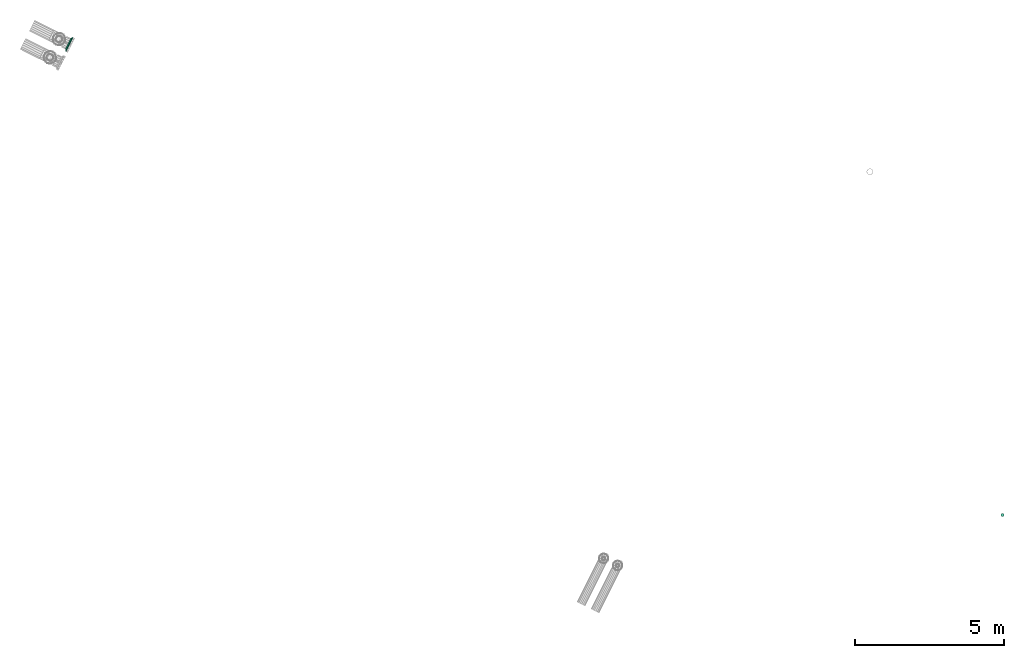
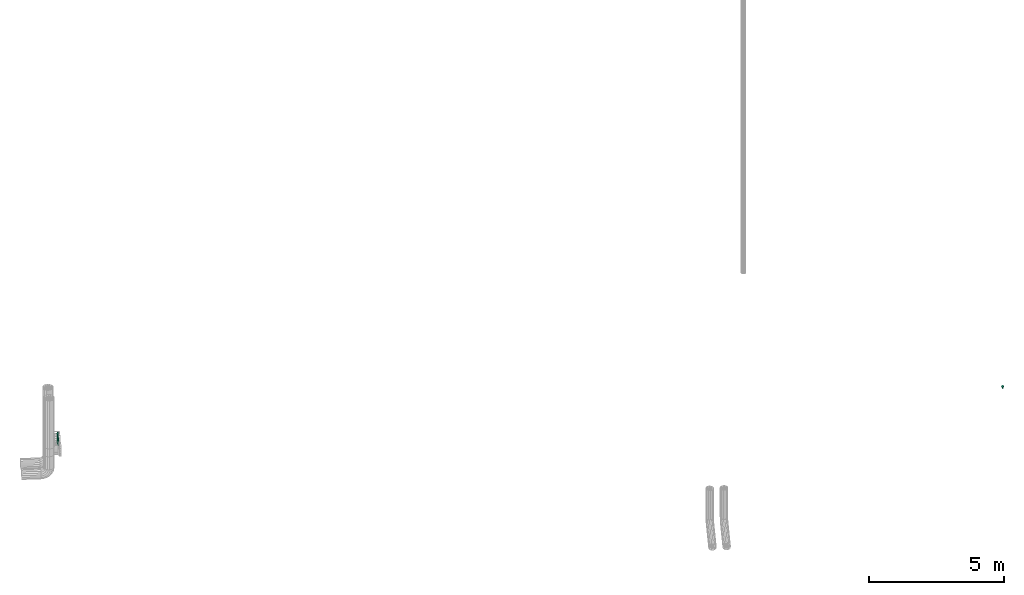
# One storey, part 11 of 11: 2 flow fittings.
"""IFC2X3 building model written with IfcOpenShell, lengths in metres."""

from ifc_helpers import new_model, si_unit, derived_unit, direction, frame, origin, place, context, subcontext, project, spatial, face_set, surface_model, source, transform, mapped, material, type_object, type_shapes, element, save


model = new_model("IFC2X3")

# Units and contexts
model_context = context("Model", 3, precision=5.2338327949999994e-05, world=origin(), true_north=direction((0.0, 1.0)))
body_context = subcontext(model_context, "Body", "Model", "MODEL_VIEW")
ifc_project = project(units=[si_unit("LENGTHUNIT", "METRE"), si_unit("AREAUNIT", "SQUARE_METRE"), si_unit("VOLUMEUNIT", "CUBIC_METRE"), si_unit("MASSUNIT", "GRAM", prefix="KILO"), si_unit("PLANEANGLEUNIT", "RADIAN"), derived_unit("THERMALTRANSMITTANCEUNIT", [(si_unit("MASSUNIT", "GRAM", prefix="KILO"), 1), (si_unit("THERMODYNAMICTEMPERATUREUNIT", "KELVIN"), -1), (si_unit("TIMEUNIT", "SECOND"), -3)])], contexts=[model_context])

# Site, building, storey
site_placement = place(None, frame((0.0, 0.0, 0.0), z_axis=(0.0, 0.0, 1.0), x_axis=(0.8939966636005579, -0.4480736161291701, 0.0)))
site = spatial("IfcSite", under=ifc_project, at=site_placement, Name="Default", CompositionType="ELEMENT")
building_placement = place(site_placement, origin())
building = spatial("IfcBuilding", under=site, at=building_placement, CompositionType="ELEMENT")
storey_placement = place(building_placement, frame((0.0, 0.0, -2.7499999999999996)))
storey = spatial("IfcBuildingStorey", under=building, at=storey_placement, Name="1. Untergeschoss", CompositionType="ELEMENT", Elevation=-2.7499999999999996)

# Flow fittings
ifc_material_1 = material(Name="IfcSurfaceStyle #850376")
distribution_element_type_1 = type_object("IfcDistributionElementType", Name="Bodenwasserablauf:Bodenwasserablauf", material=ifc_material_1)
shared_shape_1 = source(origin(), body_context, "Body", "SurfaceModel", [
    surface_model("IfcFaceBasedSurfaceModel", [(36.41969876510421, 7.86786531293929, 0.0), (36.4017427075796, 7.871031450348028, 0.0), (36.4017427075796, 7.871031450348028, -0.007999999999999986), (36.41969876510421, 7.86786531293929, -0.007999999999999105), (36.38595241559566, 7.880147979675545, 0.0), (36.38595241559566, 7.880147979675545, -0.007999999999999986), (36.37423243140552, 7.8941153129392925, 0.0), (36.37423243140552, 7.8941153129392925, -0.007999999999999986), (36.36799635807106, 7.911248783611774, 0.0), (36.36799635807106, 7.911248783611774, -0.007999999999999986), (36.367996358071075, 7.929481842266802, 0.0), (36.367996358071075, 7.929481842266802, -0.007999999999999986), (36.37423243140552, 7.946615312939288, 0.0), (36.37423243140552, 7.946615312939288, -0.007999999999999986), (36.38595241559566, 7.960582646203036, 0.0), (36.38595241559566, 7.960582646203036, -0.007999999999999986), (36.4017427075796, 7.969699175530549, 0.0), (36.4017427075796, 7.969699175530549, -0.007999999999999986), (36.41969876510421, 7.972865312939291, 0.0), (36.41969876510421, 7.972865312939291, -0.007999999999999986), (36.43765482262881, 7.96969917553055, 0.0), (36.43765482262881, 7.96969917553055, -0.007999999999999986), (36.453445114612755, 7.960582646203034, 0.0), (36.453445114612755, 7.960582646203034, -0.007999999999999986), (36.46516509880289, 7.94661531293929, 0.0), (36.46516509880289, 7.94661531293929, -0.007999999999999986), (36.47140117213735, 7.929481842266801, 0.0), (36.47140117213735, 7.929481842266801, -0.007999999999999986), (36.47140117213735, 7.911248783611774, 0.0), (36.47140117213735, 7.911248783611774, -0.007999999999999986), (36.465165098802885, 7.894115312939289, 0.0), (36.465165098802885, 7.894115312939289, -0.007999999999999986), (36.453445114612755, 7.880147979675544, 0.0), (36.453445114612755, 7.880147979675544, -0.007999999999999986), (36.4376548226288, 7.871031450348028, 0.0), (36.4376548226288, 7.871031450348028, -0.007999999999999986), (36.4196987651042, 7.92036531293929, 0.0), (36.4196987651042, 7.92036531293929, -0.007999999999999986), (36.4196987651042, 7.872865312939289, -0.007999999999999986), (36.40345280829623, 7.875729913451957, -0.007999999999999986), (36.40345280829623, 7.875729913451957, -0.04099999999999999), (36.4196987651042, 7.872865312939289, -0.04099999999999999), (36.38916635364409, 7.883978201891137, -0.007999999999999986), (36.38916635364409, 7.883978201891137, -0.04099999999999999), (36.37856255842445, 7.8966153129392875, -0.007999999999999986), (36.37856255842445, 7.8966153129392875, -0.04099999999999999), (36.37292039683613, 7.912117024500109, -0.007999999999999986), (36.37292039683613, 7.912117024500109, -0.04099999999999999), (36.37292039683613, 7.928613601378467, -0.007999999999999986), (36.37292039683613, 7.928613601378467, -0.04099999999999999), (36.37856255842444, 7.944115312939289, -0.007999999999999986), (36.37856255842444, 7.944115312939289, -0.04099999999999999), (36.3891663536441, 7.956752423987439, -0.007999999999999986), (36.3891663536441, 7.956752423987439, -0.04099999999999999), (36.40345280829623, 7.9650007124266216, -0.007999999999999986), (36.40345280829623, 7.9650007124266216, -0.04099999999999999), (36.4196987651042, 7.967865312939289, -0.007999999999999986), (36.4196987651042, 7.967865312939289, -0.04099999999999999), (36.43594472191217, 7.96500071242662, -0.007999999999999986), (36.43594472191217, 7.96500071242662, -0.04099999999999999), (36.450231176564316, 7.956752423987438, -0.007999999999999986), (36.450231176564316, 7.956752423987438, -0.04099999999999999), (36.46083497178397, 7.94411531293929, -0.007999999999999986), (36.46083497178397, 7.94411531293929, -0.04099999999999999), (36.46647713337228, 7.928613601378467, -0.007999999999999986), (36.46647713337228, 7.928613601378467, -0.04099999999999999), (36.46647713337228, 7.912117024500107, -0.007999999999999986), (36.46647713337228, 7.912117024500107, -0.04099999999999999), (36.46083497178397, 7.896615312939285, -0.007999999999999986), (36.46083497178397, 7.896615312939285, -0.04099999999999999), (36.45023117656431, 7.883978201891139, -0.007999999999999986), (36.45023117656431, 7.883978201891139, -0.04099999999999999), (36.43594472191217, 7.875729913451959, -0.007999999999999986), (36.43594472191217, 7.875729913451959, -0.04099999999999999), (36.4196987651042, 7.92036531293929, -0.04099999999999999), (36.41969876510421, 7.888865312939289, -0.04099999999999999), (36.40892513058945, 7.890764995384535, -0.04099999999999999), (36.40892513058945, 7.890764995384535, -0.10300000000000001), (36.41969876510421, 7.888865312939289, -0.10300000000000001), (36.399450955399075, 7.896234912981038, -0.04099999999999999), (36.399450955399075, 7.896234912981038, -0.10300000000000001), (36.392418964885, 7.9046153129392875, -0.04099999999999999), (36.392418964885, 7.9046153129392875, -0.10300000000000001), (36.38867732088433, 7.914895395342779, -0.04099999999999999), (36.38867732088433, 7.914895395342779, -0.10300000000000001), (36.38867732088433, 7.925835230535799, -0.04099999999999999), (36.38867732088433, 7.925835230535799, -0.10300000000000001), (36.392418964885, 7.936115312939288, -0.04099999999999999), (36.392418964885, 7.936115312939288, -0.10300000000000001), (36.399450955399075, 7.9444957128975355, -0.04099999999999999), (36.399450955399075, 7.9444957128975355, -0.10300000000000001), (36.40892513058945, 7.949965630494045, -0.04099999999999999), (36.40892513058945, 7.949965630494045, -0.10300000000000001), (36.41969876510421, 7.95186531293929, -0.04099999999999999), (36.41969876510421, 7.95186531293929, -0.10300000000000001), (36.43047239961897, 7.9499656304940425, -0.04099999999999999), (36.43047239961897, 7.9499656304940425, -0.10300000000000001), (36.439946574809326, 7.944495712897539, -0.04099999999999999), (36.439946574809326, 7.944495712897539, -0.10300000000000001), (36.44697856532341, 7.936115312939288, -0.04099999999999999), (36.44697856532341, 7.936115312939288, -0.10300000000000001), (36.450720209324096, 7.925835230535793, -0.04099999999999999), (36.450720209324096, 7.925835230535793, -0.10300000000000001), (36.4507202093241, 7.9148953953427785, -0.04099999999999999), (36.4507202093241, 7.9148953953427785, -0.10300000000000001), (36.44697856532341, 7.904615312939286, -0.04099999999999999), (36.44697856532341, 7.904615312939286, -0.10300000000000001), (36.439946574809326, 7.896234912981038, -0.04099999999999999), (36.439946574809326, 7.896234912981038, -0.10300000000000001), (36.43047239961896, 7.890764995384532, -0.04099999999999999), (36.43047239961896, 7.890764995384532, -0.10300000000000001)], [face_set([[[0, 1, 2, 3]], [[1, 4, 5, 2]], [[4, 6, 7, 5]], [[6, 8, 9, 7]], [[8, 10, 11, 9]], [[10, 12, 13, 11]], [[12, 14, 15, 13]], [[14, 16, 17, 15]], [[16, 18, 19, 17]], [[18, 20, 21, 19]], [[20, 22, 23, 21]], [[22, 24, 25, 23]], [[24, 26, 27, 25]], [[26, 28, 29, 27]], [[28, 30, 31, 29]], [[30, 32, 33, 31]], [[32, 34, 35, 33]], [[34, 0, 3, 35]], [[36, 1, 0]], [[36, 4, 1]], [[36, 6, 4]], [[36, 8, 6]], [[36, 10, 8]], [[36, 12, 10]], [[36, 14, 12]], [[36, 16, 14]], [[36, 18, 16]], [[36, 20, 18]], [[36, 22, 20]], [[36, 24, 22]], [[36, 26, 24]], [[36, 28, 26]], [[36, 30, 28]], [[36, 32, 30]], [[36, 34, 32]], [[36, 0, 34]], [[37, 35, 3]], [[37, 33, 35]], [[37, 31, 33]], [[37, 29, 31]], [[37, 27, 29]], [[37, 25, 27]], [[37, 23, 25]], [[37, 21, 23]], [[37, 19, 21]], [[37, 17, 19]], [[37, 15, 17]], [[37, 13, 15]], [[37, 11, 13]], [[37, 9, 11]], [[37, 7, 9]], [[37, 5, 7]], [[37, 2, 5]], [[37, 3, 2]], [[38, 39, 40, 41]], [[39, 42, 43, 40]], [[42, 44, 45, 43]], [[44, 46, 47, 45]], [[46, 48, 49, 47]], [[48, 50, 51, 49]], [[50, 52, 53, 51]], [[52, 54, 55, 53]], [[54, 56, 57, 55]], [[56, 58, 59, 57]], [[58, 60, 61, 59]], [[60, 62, 63, 61]], [[62, 64, 65, 63]], [[64, 66, 67, 65]], [[66, 68, 69, 67]], [[68, 70, 71, 69]], [[70, 72, 73, 71]], [[72, 38, 41, 73]], [[74, 73, 41]], [[74, 71, 73]], [[74, 69, 71]], [[74, 67, 69]], [[74, 65, 67]], [[74, 63, 65]], [[74, 61, 63]], [[74, 59, 61]], [[74, 57, 59]], [[74, 55, 57]], [[74, 53, 55]], [[74, 51, 53]], [[74, 49, 51]], [[74, 47, 49]], [[74, 45, 47]], [[74, 43, 45]], [[74, 40, 43]], [[74, 41, 40]], [[75, 76, 77, 78]], [[76, 79, 80, 77]], [[79, 81, 82, 80]], [[81, 83, 84, 82]], [[83, 85, 86, 84]], [[85, 87, 88, 86]], [[87, 89, 90, 88]], [[89, 91, 92, 90]], [[91, 93, 94, 92]], [[93, 95, 96, 94]], [[95, 97, 98, 96]], [[97, 99, 100, 98]], [[99, 101, 102, 100]], [[101, 103, 104, 102]], [[103, 105, 106, 104]], [[105, 107, 108, 106]], [[107, 109, 110, 108]], [[109, 75, 78, 110]]])]),
])
type_shapes(distribution_element_type_1, [shared_shape_1])
flow_fitting_1_placement = place(storey_placement, frame((0.0, 0.0, 2.7499999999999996)))
element("IfcFlowFitting", 1, at=flow_fitting_1_placement, inside=storey, type_object=distribution_element_type_1, material=ifc_material_1, Name="Bodenwasserablauf", ObjectType="Bodenwasserablauf", context=body_context, shape_type="MappedRepresentation", body=[
    mapped(shared_shape_1, transform((0.0, 0.0, 0.0), scale=1.0)),
])
ifc_material_2 = material(Name="IfcSurfaceStyle #1741")
distribution_element_type_2 = type_object("IfcDistributionElementType", Name="Flansch 861233:Flansch 861233", material=ifc_material_2)
shared_shape_2 = source(origin(), body_context, "Body", "SurfaceModel", [
    surface_model("IfcFaceBasedSurfaceModel", [(1.2476692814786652, 8.01220839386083, -0.8955573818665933), (1.2476692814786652, 7.974740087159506, -0.9021640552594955), (1.285669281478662, 7.972021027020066, -0.8946934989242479), (1.285669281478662, 8.012208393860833, -0.8876073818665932), (1.2476692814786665, 7.941791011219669, -0.9211872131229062), (1.2856692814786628, 7.936680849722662, -0.9150971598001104), (1.2476692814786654, 7.917335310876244, -0.9503323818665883), (1.2856692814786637, 7.910450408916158, -0.9463573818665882), (1.2476692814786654, 7.904322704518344, -0.986084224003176), (1.2856692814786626, 7.896493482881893, -0.9847037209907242), (1.2476692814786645, 7.904322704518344, -1.0241305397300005), (1.2856692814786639, 7.896493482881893, -1.0255110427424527), (1.247669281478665, 7.917335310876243, -1.0598823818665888), (1.285669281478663, 7.910450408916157, -1.0638573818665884), (1.2476692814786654, 7.941791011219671, -1.0890275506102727), (1.2856692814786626, 7.936680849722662, -1.0951176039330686), (1.2476692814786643, 7.974740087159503, -1.1080507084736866), (1.2856692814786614, 7.972021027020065, -1.1155212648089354), (1.247669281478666, 8.01220839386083, -1.114657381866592), (1.2856692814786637, 8.012208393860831, -1.122607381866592), (1.2476692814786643, 8.04967670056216, -1.1080507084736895), (1.2856692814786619, 8.052395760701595, -1.1155212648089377), (1.2476692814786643, 8.082625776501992, -1.089027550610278), (1.2856692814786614, 8.087735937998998, -1.0951176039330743), (1.2476692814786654, 8.107081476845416, -1.0598823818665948), (1.285669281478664, 8.113966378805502, -1.063857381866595), (1.2476692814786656, 8.120094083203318, -1.0241305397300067), (1.2856692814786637, 8.127923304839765, -1.0255110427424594), (1.2476692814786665, 8.12009408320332, -0.986084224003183), (1.285669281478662, 8.127923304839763, -0.9847037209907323), (1.2476692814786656, 8.107081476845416, -0.9503323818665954), (1.285669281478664, 8.1139663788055, -0.946357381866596), (1.2476692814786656, 8.08262577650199, -0.9211872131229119), (1.2856692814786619, 8.087735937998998, -0.9150971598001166), (1.2476692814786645, 8.049676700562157, -0.9021640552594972), (1.2856692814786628, 8.052395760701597, -0.8946934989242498), (1.2856692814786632, 7.8422083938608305, -1.0051073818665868), (1.285669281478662, 7.852460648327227, -1.06325080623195), (1.3096692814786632, 7.852460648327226, -1.06325080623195), (1.3096692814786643, 7.842208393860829, -1.0051073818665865), (1.2856692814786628, 7.881980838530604, -1.1143812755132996), (1.3096692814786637, 7.881980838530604, -1.1143812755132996), (1.2856692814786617, 7.927208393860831, -1.1523317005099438), (1.3096692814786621, 7.927208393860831, -1.1523317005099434), (1.2856692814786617, 7.982688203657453, -1.1725246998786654), (1.3096692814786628, 7.982688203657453, -1.1725246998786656), (1.2856692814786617, 8.04172858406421, -1.1725246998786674), (1.3096692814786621, 8.04172858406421, -1.1725246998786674), (1.2856692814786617, 8.097208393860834, -1.1523317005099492), (1.3096692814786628, 8.097208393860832, -1.1523317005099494), (1.2856692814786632, 8.142435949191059, -1.1143812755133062), (1.3096692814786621, 8.142435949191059, -1.1143812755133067), (1.2856692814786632, 8.171956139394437, -1.0632508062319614), (1.3096692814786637, 8.171956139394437, -1.0632508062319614), (1.2856692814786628, 8.182208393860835, -1.0051073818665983), (1.3096692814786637, 8.182208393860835, -1.0051073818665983), (1.2856692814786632, 8.171956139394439, -0.9469639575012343), (1.3096692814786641, 8.171956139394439, -0.946963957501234), (1.2856692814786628, 8.142435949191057, -0.8958334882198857), (1.3096692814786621, 8.14243594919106, -0.8958334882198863), (1.2856692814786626, 8.097208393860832, -0.8578830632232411), (1.3096692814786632, 8.09720839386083, -0.857883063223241), (1.2856692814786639, 8.04172858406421, -0.837690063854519), (1.3096692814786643, 8.041728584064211, -0.837690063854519), (1.2856692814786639, 7.982688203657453, -0.8376900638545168), (1.3096692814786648, 7.982688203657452, -0.8376900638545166), (1.2856692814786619, 7.927208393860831, -0.857883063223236), (1.3096692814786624, 7.92720839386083, -0.857883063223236), (1.2856692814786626, 7.881980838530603, -0.8958334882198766), (1.3096692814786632, 7.881980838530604, -0.8958334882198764), (1.285669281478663, 7.852460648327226, -0.9469639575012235), (1.3096692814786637, 7.852460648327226, -0.9469639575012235), (1.2856692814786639, 8.012208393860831, -1.0051073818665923), (1.2476692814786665, 8.012208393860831, -0.795557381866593), (1.2476692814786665, 7.9405380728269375, -0.8081947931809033), (1.2856692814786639, 7.919862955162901, -0.7513903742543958), (1.2856692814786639, 8.012208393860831, -0.7351073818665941), (1.2476692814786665, 7.877512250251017, -0.8445827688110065), (1.285669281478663, 7.838655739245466, -0.7982753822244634), (1.2476692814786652, 7.830732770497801, -0.9003323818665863), (1.285669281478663, 7.778381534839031, -0.8701073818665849), (1.2476692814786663, 7.805841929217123, -0.9687194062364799), (1.285669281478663, 7.746310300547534, -0.9582223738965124), (1.2476692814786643, 7.805841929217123, -1.0414953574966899), (1.2856692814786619, 7.746310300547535, -1.051992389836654), (1.2476692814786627, 7.8307327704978, -1.1098823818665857), (1.2856692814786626, 7.77838153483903, -1.1401073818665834), (1.2476692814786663, 7.877512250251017, -1.1656319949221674), (1.285669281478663, 7.838655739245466, -1.2119393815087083), (1.247669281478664, 7.9405380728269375, -1.2020199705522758), (1.2856692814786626, 7.919862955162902, -1.2588243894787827), (1.2476692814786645, 8.012208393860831, -1.2146573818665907), (1.285669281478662, 8.012208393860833, -1.2751073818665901), (1.2476692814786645, 8.083878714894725, -1.2020199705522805), (1.2856692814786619, 8.104553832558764, -1.258824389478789), (1.2476692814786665, 8.146904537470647, -1.165631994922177), (1.285669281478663, 8.1857610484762, -1.21193938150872), (1.2476692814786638, 8.19368401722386, -1.1098823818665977), (1.285669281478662, 8.246035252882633, -1.1401073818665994), (1.2476692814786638, 8.21857485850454, -1.0414953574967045), (1.2856692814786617, 8.27810648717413, -1.0519923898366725), (1.2476692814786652, 8.21857485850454, -0.9687194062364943), (1.285669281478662, 8.27810648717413, -0.9582223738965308), (1.247669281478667, 8.193684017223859, -0.900332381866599), (1.2856692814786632, 8.246035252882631, -0.8701073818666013), (1.2476692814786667, 8.146904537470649, -0.8445827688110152), (1.2856692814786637, 8.185761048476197, -0.798275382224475), (1.2476692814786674, 8.083878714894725, -0.8081947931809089), (1.2856692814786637, 8.104553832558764, -0.7513903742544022), (1.2856692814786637, 7.742208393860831, -1.0051073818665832), (1.2856692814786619, 7.758491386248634, -1.0974528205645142), (1.3096692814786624, 7.758491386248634, -1.0974528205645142), (1.3096692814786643, 7.74220839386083, -1.0051073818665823), (1.285669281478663, 7.805376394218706, -1.1786600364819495), (1.3096692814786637, 7.805376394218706, -1.1786600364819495), (1.2856692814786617, 7.87720839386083, -1.2389342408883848), (1.3096692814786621, 7.87720839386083, -1.2389342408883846), (1.2856692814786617, 7.965323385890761, -1.2710054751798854), (1.3096692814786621, 7.965323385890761, -1.2710054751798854), (1.285669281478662, 8.059093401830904, -1.271005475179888), (1.309669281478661, 8.059093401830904, -1.271005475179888), (1.2856692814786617, 8.147208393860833, -1.2389342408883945), (1.3096692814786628, 8.147208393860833, -1.2389342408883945), (1.2856692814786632, 8.219040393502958, -1.1786600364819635), (1.3096692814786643, 8.219040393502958, -1.178660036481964), (1.2856692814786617, 8.265925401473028, -1.0974528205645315), (1.3096692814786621, 8.265925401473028, -1.097452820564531), (1.2856692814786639, 8.282208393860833, -1.0051073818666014), (1.3096692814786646, 8.282208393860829, -1.0051073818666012), (1.2856692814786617, 8.265925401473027, -0.9127619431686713), (1.3096692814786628, 8.265925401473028, -0.9127619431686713), (1.285669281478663, 8.219040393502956, -0.8315547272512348), (1.3096692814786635, 8.219040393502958, -0.8315547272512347), (1.2856692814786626, 8.147208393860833, -0.7712805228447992), (1.3096692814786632, 8.147208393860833, -0.7712805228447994), (1.285669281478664, 8.059093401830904, -0.7392092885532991), (1.309669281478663, 8.059093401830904, -0.7392092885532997), (1.285669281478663, 7.965323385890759, -0.7392092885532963), (1.3096692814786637, 7.965323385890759, -0.7392092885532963), (1.285669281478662, 7.87720839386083, -0.7712805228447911), (1.3096692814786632, 7.87720839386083, -0.771280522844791), (1.285669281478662, 7.8053763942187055, -0.8315547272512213), (1.3096692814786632, 7.805376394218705, -0.831554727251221), (1.2856692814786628, 7.758491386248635, -0.912761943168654), (1.3096692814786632, 7.758491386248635, -0.9127619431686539)], [face_set([[[0, 1, 2, 3]], [[1, 4, 5, 2]], [[4, 6, 7, 5]], [[6, 8, 9, 7]], [[8, 10, 11, 9]], [[10, 12, 13, 11]], [[12, 14, 15, 13]], [[14, 16, 17, 15]], [[16, 18, 19, 17]], [[18, 20, 21, 19]], [[20, 22, 23, 21]], [[22, 24, 25, 23]], [[24, 26, 27, 25]], [[26, 28, 29, 27]], [[28, 30, 31, 29]], [[30, 32, 33, 31]], [[32, 34, 35, 33]], [[34, 0, 3, 35]], [[36, 37, 38, 39]], [[37, 40, 41, 38]], [[40, 42, 43, 41]], [[42, 44, 45, 43]], [[44, 46, 47, 45]], [[46, 48, 49, 47]], [[48, 50, 51, 49]], [[50, 52, 53, 51]], [[52, 54, 55, 53]], [[54, 56, 57, 55]], [[56, 58, 59, 57]], [[58, 60, 61, 59]], [[60, 62, 63, 61]], [[62, 64, 65, 63]], [[64, 66, 67, 65]], [[66, 68, 69, 67]], [[68, 70, 71, 69]], [[70, 36, 39, 71]], [[72, 37, 36]], [[72, 40, 37]], [[72, 42, 40]], [[72, 44, 42]], [[72, 46, 44]], [[72, 48, 46]], [[72, 50, 48]], [[72, 52, 50]], [[72, 54, 52]], [[72, 56, 54]], [[72, 58, 56]], [[72, 60, 58]], [[72, 62, 60]], [[72, 64, 62]], [[72, 66, 64]], [[72, 68, 66]], [[72, 70, 68]], [[72, 36, 70]], [[73, 74, 75, 76]], [[74, 77, 78, 75]], [[77, 79, 80, 78]], [[79, 81, 82, 80]], [[81, 83, 84, 82]], [[83, 85, 86, 84]], [[85, 87, 88, 86]], [[87, 89, 90, 88]], [[89, 91, 92, 90]], [[91, 93, 94, 92]], [[93, 95, 96, 94]], [[95, 97, 98, 96]], [[97, 99, 100, 98]], [[99, 101, 102, 100]], [[101, 103, 104, 102]], [[103, 105, 106, 104]], [[105, 107, 108, 106]], [[107, 73, 76, 108]], [[109, 110, 111, 112]], [[110, 113, 114, 111]], [[113, 115, 116, 114]], [[115, 117, 118, 116]], [[117, 119, 120, 118]], [[119, 121, 122, 120]], [[121, 123, 124, 122]], [[123, 125, 126, 124]], [[125, 127, 128, 126]], [[127, 129, 130, 128]], [[129, 131, 132, 130]], [[131, 133, 134, 132]], [[133, 135, 136, 134]], [[135, 137, 138, 136]], [[137, 139, 140, 138]], [[139, 141, 142, 140]], [[141, 143, 144, 142]], [[143, 109, 112, 144]]])]),
])
type_shapes(distribution_element_type_2, [shared_shape_2])
flow_fitting_2_placement = place(storey_placement, frame((0.0, 0.0, 2.7499999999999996)))
element("IfcFlowFitting", 2, at=flow_fitting_2_placement, inside=storey, type_object=distribution_element_type_2, material=ifc_material_2, Name="Flansch", ObjectType="Flansch", context=body_context, shape_type="MappedRepresentation", body=[
    mapped(shared_shape_2, transform((0.0, 0.0, 0.0), scale=1.0)),
])

save(model, "model.ifc")
